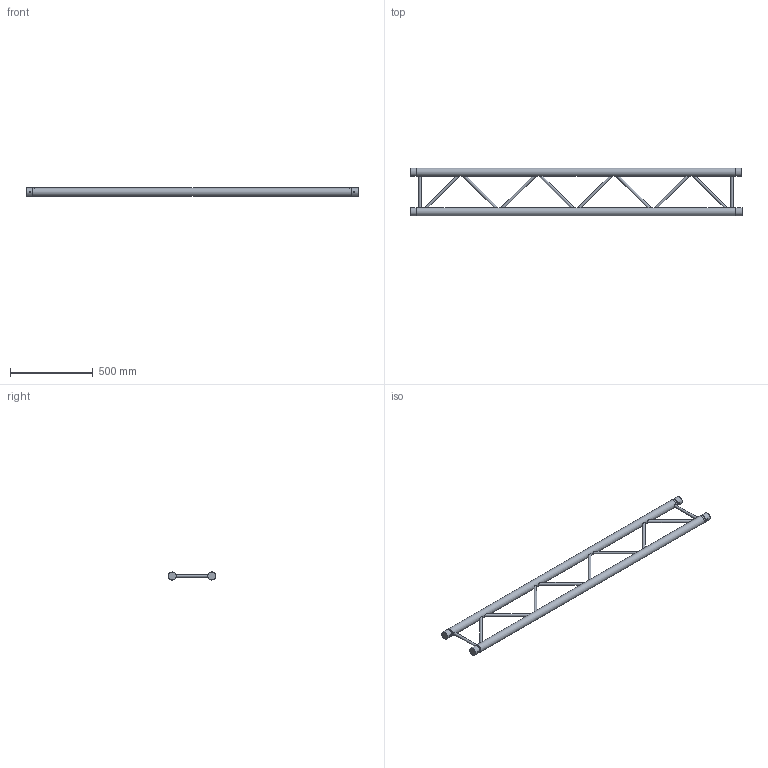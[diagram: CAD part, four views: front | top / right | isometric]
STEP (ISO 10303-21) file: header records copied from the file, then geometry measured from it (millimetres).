
FILE_DESCRIPTION(/* description */ (''),/* implementation_level */ '2;1');
FILE_NAME(/* name */ 'C:\Users\stephan\Desktop\Nieuwe map\H30L\111050044.stp',/* time_stamp */ '2016-09-12T11:51:51+02:00',/* author */ ('Stephan'),/* organization */ (''),/* preprocessor_version */ 'ST-DEVELOPER v15.6',/* originating_system */ 'Autodesk Inventor 2015',/* authorisation */ '');
FILE_SCHEMA (('AUTOMOTIVE_DESIGN { 1 0 10303 214 3 1 1 }'));
Length unit declared in the file: millimetre
Products named in the file (1): 160026964
Bounding box: 2000 x 287.3 x 48.3 mm (x, y, z)
Volume: 2478990.4 mm3; surface area: 1274554.6 mm2
Topology: 3 solids, 5 shells, 86 faces, 186 edges, 116 vertices
Faces by surface type: plane 56, cylinder 26, cone 4
Full cylindrical faces by diameter (mm): 10 x4, 16 x10, 41.8 x4, 42.3 x2, 48.3 x6
Entity records: 2770 total; most frequent: CARTESIAN_POINT 795, DIRECTION 346, ORIENTED_EDGE 312, AXIS2_PLACEMENT_3D 155, EDGE_LOOP 152, EDGE_CURVE 152, VERTEX_POINT 116, STYLED_ITEM 87
